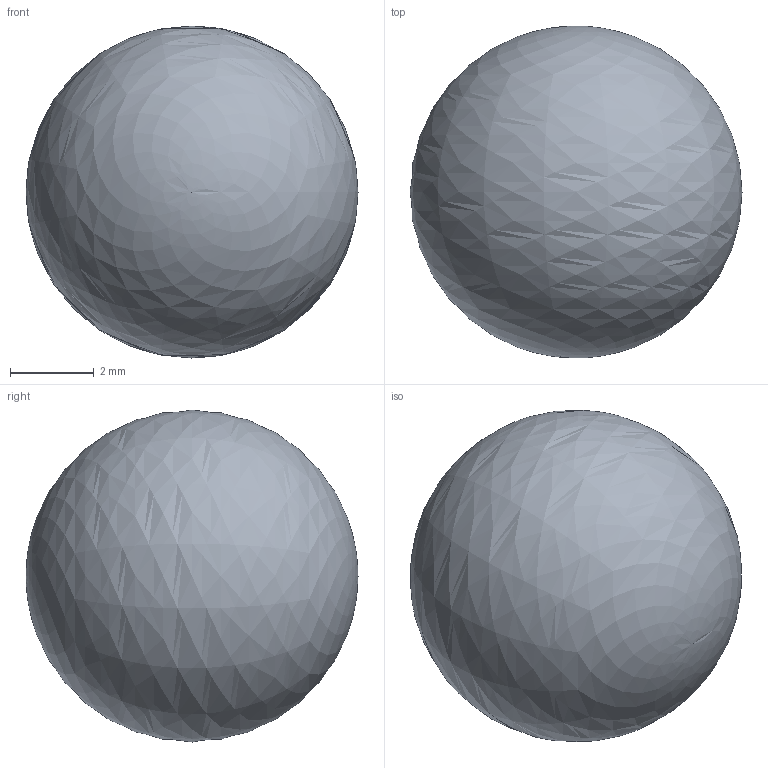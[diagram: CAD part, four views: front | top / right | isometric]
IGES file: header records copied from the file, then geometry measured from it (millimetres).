
Start section: SolidWorks IGES file using analytic representation for surfaces
Global section: file name: D:\Solid_parts\MECHeDESIGN\Bal-Tec\Catalog 105-A\Distribution\IGES\312-B.IGS; native system: SolidWorks 2005 by SolidWorks Corporation; preprocessor: SolidWorks 2005 by SolidWorks Corporation; author: rvillegas; date: 061204.225227; units: inch
Bounding box: 7.94 x 7.94 x 7.94 mm (x, y, z)
Surface area: 395.9 mm2 (no closed solid volume)
Topology: 0 solids, 0 shells, 2 faces, 6 edges, 4 vertices
Faces by surface type: revolution 2
